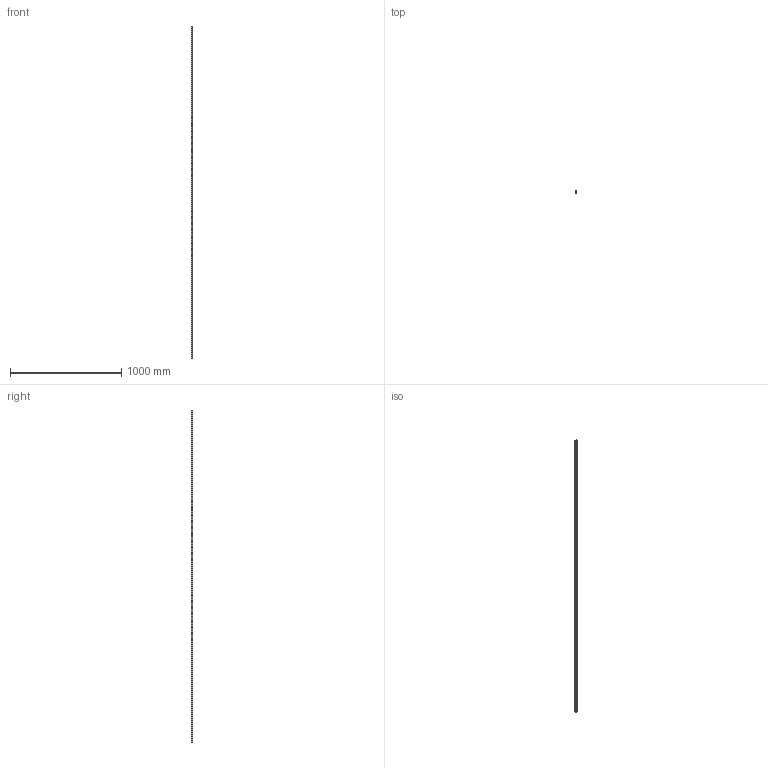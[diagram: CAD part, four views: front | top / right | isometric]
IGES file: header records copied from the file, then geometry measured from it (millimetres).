
Start section: SolidWorks IGES file using analytic representation for surfaces
Global section: file name: C:\Users\IanO\Desktop\L1016_v2\L1016.BL15_v2\L1016.BL15_v2_20190611_IGES\L1016.BL15-2980.igs; native system: SolidWorks 2017; preprocessor: SolidWorks 2017; author: IanO; date: 190612.123429; units: millimetre
Bounding box: 15 x 13 x 2980 mm (x, y, z)
Surface area: 181997.4 mm2 (no closed solid volume)
Topology: 0 solids, 0 shells, 276 faces, 7352 edges, 7352 vertices
Faces by surface type: revolution 204, bspline 72
